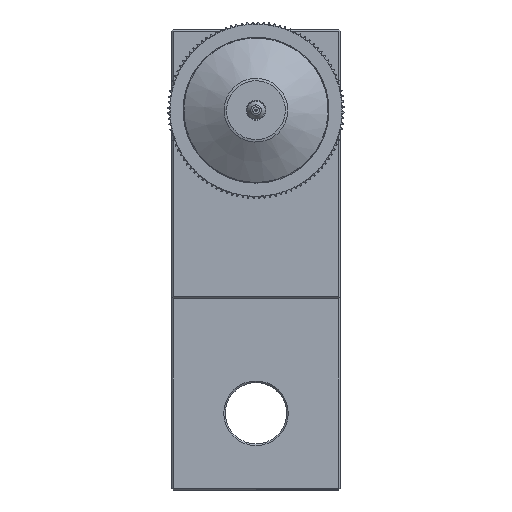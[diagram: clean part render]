
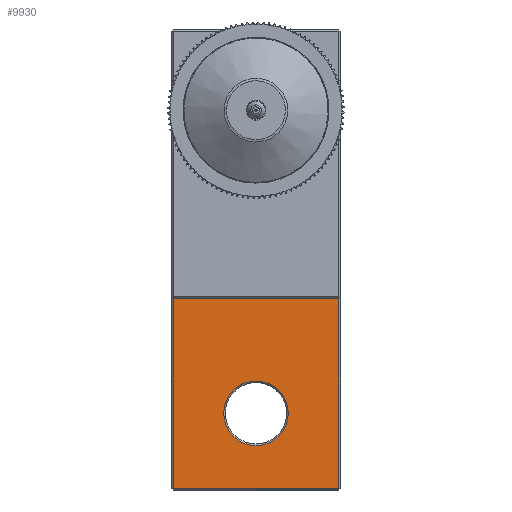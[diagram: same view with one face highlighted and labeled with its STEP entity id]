
A CAD part, front view. The second image highlights one B-rep face of the part: STEP entity #9930.
In plain terms, the highlighted planar face has unit normal (0, -1, 0).
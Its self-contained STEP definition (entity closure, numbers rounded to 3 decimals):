
#614 = ORIENTED_EDGE ( 'NONE', *, *, #13005, .T. ) ;
#739 = CARTESIAN_POINT ( 'NONE',  ( -11., 72., 52.604 ) ) ;
#812 = CARTESIAN_POINT ( 'NONE',  ( -11., 72., 77.804 ) ) ;
#825 = ORIENTED_EDGE ( 'NONE', *, *, #6423, .F. ) ;
#1817 = ORIENTED_EDGE ( 'NONE', *, *, #22022, .T. ) ;
#2587 = EDGE_LOOP ( 'NONE', ( #825, #1817, #10629, #18133 ) ) ;
#2921 = CARTESIAN_POINT ( 'NONE',  ( -10.8, 72., 52.604 ) ) ;
#3439 = VECTOR ( 'NONE', #12514, 1000. ) ;
#3780 = LINE ( 'NONE', #9020, #3439 ) ;
#4215 = FACE_OUTER_BOUND ( 'NONE', #2587, .T. ) ;
#4300 = CARTESIAN_POINT ( 'NONE',  ( -11., 72., 52.804 ) ) ;
#4530 = DIRECTION ( 'NONE',  ( 1., 0., 0. ) ) ;
#6077 = DIRECTION ( 'NONE',  ( 0., -1., 0. ) ) ;
#6082 = CARTESIAN_POINT ( 'NONE',  ( -10.8, 72., 77.804 ) ) ;
#6423 = EDGE_CURVE ( 'NONE', #11029, #16151, #18862, .T. ) ;
#7907 = DIRECTION ( 'NONE',  ( -1., 0., 0. ) ) ;
#8285 = DIRECTION ( 'NONE',  ( 0., 0., -1. ) ) ;
#9020 = CARTESIAN_POINT ( 'NONE',  ( 10.8, 72., 52.604 ) ) ;
#9472 = CIRCLE ( 'NONE', #13586, 4.2 ) ;
#9930 = ADVANCED_FACE ( 'NONE', ( #4215, #11296 ), #16675, .T. ) ;
#10629 = ORIENTED_EDGE ( 'NONE', *, *, #18228, .T. ) ;
#10866 = EDGE_LOOP ( 'NONE', ( #614 ) ) ;
#11029 = VERTEX_POINT ( 'NONE', #14717 ) ;
#11296 = FACE_BOUND ( 'NONE', #10866, .T. ) ;
#12514 = DIRECTION ( 'NONE',  ( 0., 0., 1. ) ) ;
#13005 = EDGE_CURVE ( 'NONE', #22077, #22077, #9472, .T. ) ;
#13261 = CARTESIAN_POINT ( 'NONE',  ( 0., 72., 58.404 ) ) ;
#13586 = AXIS2_PLACEMENT_3D ( 'NONE', #16906, #15271, #15168 ) ;
#14717 = CARTESIAN_POINT ( 'NONE',  ( -10.8, 72., 52.804 ) ) ;
#15168 = DIRECTION ( 'NONE',  ( 0., 0., -1. ) ) ;
#15271 = DIRECTION ( 'NONE',  ( 0., 1., 0. ) ) ;
#15313 = VERTEX_POINT ( 'NONE', #18887 ) ;
#15413 = CARTESIAN_POINT ( 'NONE',  ( 10.8, 72., 52.804 ) ) ;
#16151 = VERTEX_POINT ( 'NONE', #6082 ) ;
#16582 = VECTOR ( 'NONE', #4530, 1000. ) ;
#16675 = PLANE ( 'NONE',  #18897 ) ;
#16752 = LINE ( 'NONE', #812, #19557 ) ;
#16906 = CARTESIAN_POINT ( 'NONE',  ( 0., 72., 62.604 ) ) ;
#16917 = VERTEX_POINT ( 'NONE', #15413 ) ;
#18133 = ORIENTED_EDGE ( 'NONE', *, *, #22032, .T. ) ;
#18153 = VECTOR ( 'NONE', #20712, 1000. ) ;
#18228 = EDGE_CURVE ( 'NONE', #16917, #15313, #3780, .T. ) ;
#18862 = LINE ( 'NONE', #2921, #18153 ) ;
#18887 = CARTESIAN_POINT ( 'NONE',  ( 10.8, 72., 77.804 ) ) ;
#18897 = AXIS2_PLACEMENT_3D ( 'NONE', #739, #6077, #8285 ) ;
#19557 = VECTOR ( 'NONE', #7907, 1000. ) ;
#20232 = LINE ( 'NONE', #4300, #16582 ) ;
#20712 = DIRECTION ( 'NONE',  ( 0., 0., 1. ) ) ;
#22022 = EDGE_CURVE ( 'NONE', #11029, #16917, #20232, .T. ) ;
#22032 = EDGE_CURVE ( 'NONE', #15313, #16151, #16752, .T. ) ;
#22077 = VERTEX_POINT ( 'NONE', #13261 ) ;
